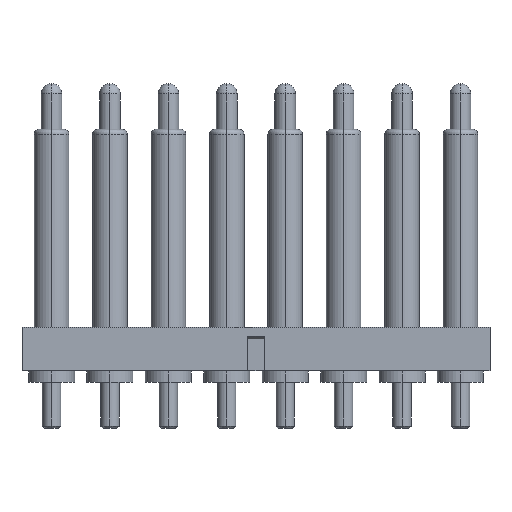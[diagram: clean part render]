
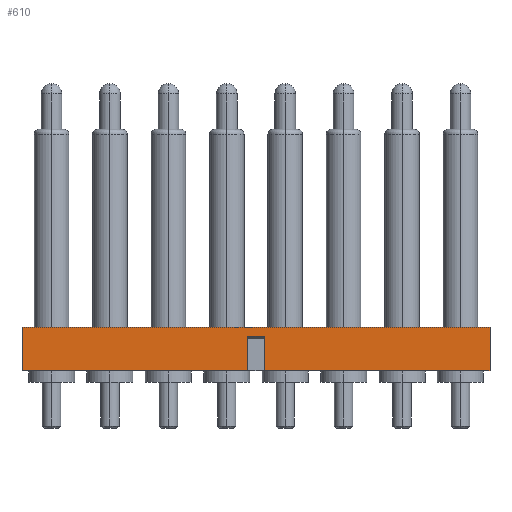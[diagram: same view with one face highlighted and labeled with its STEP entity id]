
A CAD part, top view. The second image highlights one B-rep face of the part: STEP entity #610.
In plain terms, the highlighted planar face has unit normal (0, 0, 1).
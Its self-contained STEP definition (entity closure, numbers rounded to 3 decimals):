
#105=DIRECTION('',(0.,-1.,0.));
#106=VECTOR('',#105,1.5);
#107=CARTESIAN_POINT('',(-0.35,1.5,1.25));
#108=LINE('',#107,#106);
#109=DIRECTION('',(-1.,0.,0.));
#110=VECTOR('',#109,9.825);
#111=CARTESIAN_POINT('',(-0.35,0.,1.25));
#112=LINE('',#111,#110);
#113=DIRECTION('',(0.,-1.,0.));
#114=VECTOR('',#113,1.9);
#115=CARTESIAN_POINT('',(10.175,1.9,1.25));
#116=LINE('',#115,#114);
#117=DIRECTION('',(-1.,0.,0.));
#118=VECTOR('',#117,9.825);
#119=CARTESIAN_POINT('',(10.175,0.,1.25));
#120=LINE('',#119,#118);
#121=DIRECTION('',(-1.,0.,0.));
#122=VECTOR('',#121,0.7);
#123=CARTESIAN_POINT('',(0.35,1.5,1.25));
#124=LINE('',#123,#122);
#129=DIRECTION('',(0.,-1.,0.));
#130=VECTOR('',#129,1.9);
#131=CARTESIAN_POINT('',(-10.175,1.9,1.25));
#132=LINE('',#131,#130);
#189=DIRECTION('',(-1.,0.,0.));
#190=VECTOR('',#189,20.35);
#191=CARTESIAN_POINT('',(10.175,1.9,1.25));
#192=LINE('',#191,#190);
#353=DIRECTION('',(0.,-1.,0.));
#354=VECTOR('',#353,1.5);
#355=CARTESIAN_POINT('',(0.35,1.5,1.25));
#356=LINE('',#355,#354);
#370=CARTESIAN_POINT('',(-0.35,0.,1.25));
#372=VERTEX_POINT('',#370);
#375=CARTESIAN_POINT('',(0.35,0.,1.25));
#376=VERTEX_POINT('',#375);
#377=CARTESIAN_POINT('',(10.175,0.,1.25));
#378=VERTEX_POINT('',#377);
#391=CARTESIAN_POINT('',(-10.175,0.,1.25));
#392=VERTEX_POINT('',#391);
#429=CARTESIAN_POINT('',(10.175,1.9,1.25));
#430=CARTESIAN_POINT('',(-10.175,1.9,1.25));
#431=VERTEX_POINT('',#429);
#432=VERTEX_POINT('',#430);
#465=CARTESIAN_POINT('',(-0.35,1.5,1.25));
#466=VERTEX_POINT('',#465);
#467=CARTESIAN_POINT('',(0.35,1.5,1.25));
#468=VERTEX_POINT('',#467);
#591=CARTESIAN_POINT('',(-10.175,0.,1.25));
#592=DIRECTION('',(0.,0.,1.));
#593=DIRECTION('',(1.,0.,0.));
#594=AXIS2_PLACEMENT_3D('',#591,#592,#593);
#595=PLANE('',#594);
#596=ORIENTED_EDGE('',*,*,#571,.T.);
#597=ORIENTED_EDGE('',*,*,#508,.T.);
#599=ORIENTED_EDGE('',*,*,#598,.F.);
#601=ORIENTED_EDGE('',*,*,#600,.F.);
#603=ORIENTED_EDGE('',*,*,#602,.T.);
#604=ORIENTED_EDGE('',*,*,#492,.T.);
#606=ORIENTED_EDGE('',*,*,#605,.F.);
#607=ORIENTED_EDGE('',*,*,#582,.T.);
#608=EDGE_LOOP('',(#596,#597,#599,#601,#603,#604,#606,#607));
#609=FACE_OUTER_BOUND('',#608,.F.);
#610=ADVANCED_FACE('',(#609),#595,.T.);
#492=EDGE_CURVE('',#378,#376,#120,.T.);
#508=EDGE_CURVE('',#372,#392,#112,.T.);
#571=EDGE_CURVE('',#466,#372,#108,.T.);
#582=EDGE_CURVE('',#468,#466,#124,.T.);
#598=EDGE_CURVE('',#432,#392,#132,.T.);
#600=EDGE_CURVE('',#431,#432,#192,.T.);
#602=EDGE_CURVE('',#431,#378,#116,.T.);
#605=EDGE_CURVE('',#468,#376,#356,.T.);
